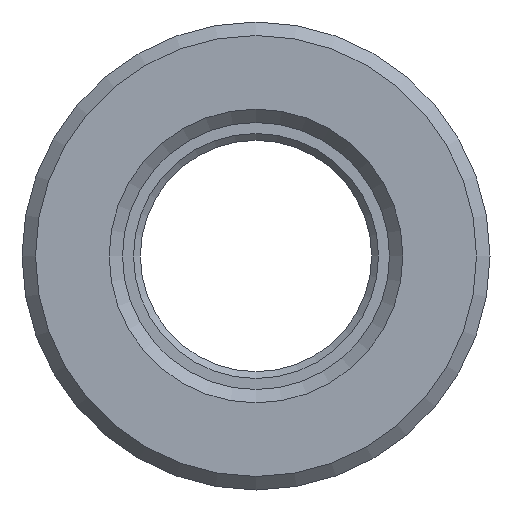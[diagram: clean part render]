
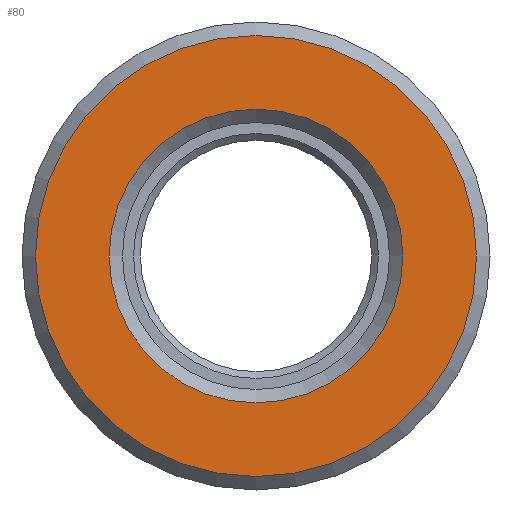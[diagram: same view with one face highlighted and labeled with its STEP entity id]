
A CAD part, front view. The second image highlights one B-rep face of the part: STEP entity #80.
In plain terms, the highlighted planar face has unit normal (0, -1, 0).
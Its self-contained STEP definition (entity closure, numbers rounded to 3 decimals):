
#80 = ADVANCED_FACE( '', ( #114, #115 ), #116, .T. );
#114 = FACE_OUTER_BOUND( '', #183, .T. );
#115 = FACE_BOUND( '', #184, .T. );
#116 = PLANE( '', #185 );
#183 = EDGE_LOOP( '', ( #262 ) );
#184 = EDGE_LOOP( '', ( #263 ) );
#185 = AXIS2_PLACEMENT_3D( '', #264, #265, #266 );
#262 = ORIENTED_EDGE( '', *, *, #358, .T. );
#263 = ORIENTED_EDGE( '', *, *, #357, .F. );
#264 = CARTESIAN_POINT( '', ( 5.335, 0., 0. ) );
#265 = DIRECTION( '', ( 0., -1., 0. ) );
#266 = DIRECTION( '', ( 0., 0., -1. ) );
#357 = EDGE_CURVE( '', #385, #385, #386, .T. );
#358 = EDGE_CURVE( '', #387, #387, #388, .T. );
#385 = VERTEX_POINT( '', #431 );
#386 = CIRCLE( '', #432, 5.335 );
#387 = VERTEX_POINT( '', #433 );
#388 = CIRCLE( '', #434, 8.01 );
#431 = CARTESIAN_POINT( '', ( 0., 0., -5.335 ) );
#432 = AXIS2_PLACEMENT_3D( '', #482, #483, #484 );
#433 = CARTESIAN_POINT( '', ( 0., 0., -8.01 ) );
#434 = AXIS2_PLACEMENT_3D( '', #485, #486, #487 );
#482 = CARTESIAN_POINT( '', ( 0., 0., 0. ) );
#483 = DIRECTION( '', ( 0., -1., 0. ) );
#484 = DIRECTION( '', ( 0., 0., -1. ) );
#485 = CARTESIAN_POINT( '', ( 0., 0., 0. ) );
#486 = DIRECTION( '', ( 0., -1., 0. ) );
#487 = DIRECTION( '', ( 0., 0., -1. ) );
